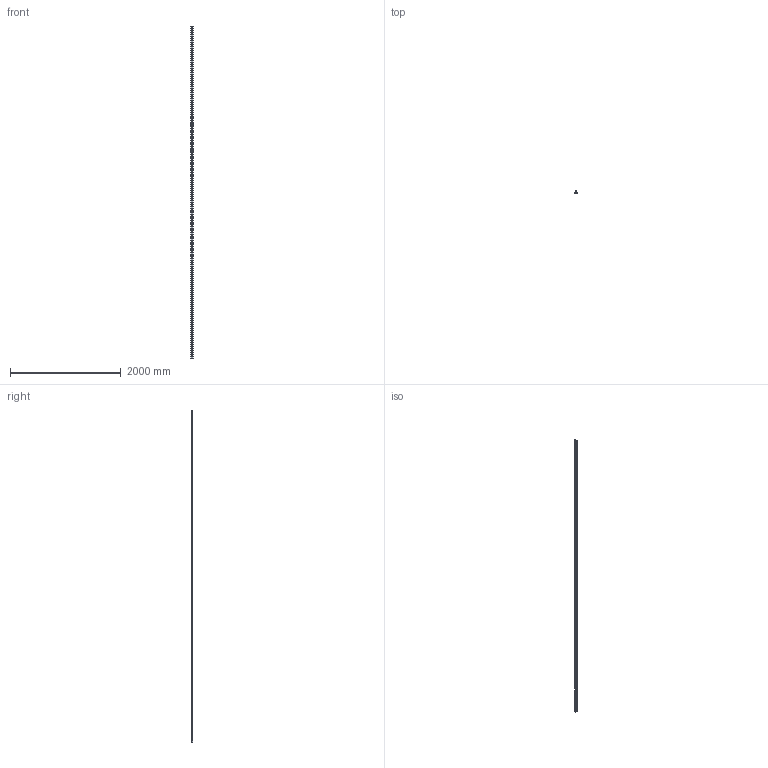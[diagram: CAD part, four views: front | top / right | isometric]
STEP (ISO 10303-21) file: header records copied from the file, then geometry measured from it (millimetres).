
FILE_DESCRIPTION (( 'STEP AP203' ), '1' );
FILE_NAME ('SBR16.STEP', '2023-12-18T14:15:40', ( '' ), ( '' ), 'SwSTEP 2.0', 'SolidWorks 2019', '' );
FILE_SCHEMA (( 'CONFIG_CONTROL_DESIGN' ));
Length unit declared in the file: millimetre
Products named in the file (1): SBR16
Bounding box: 40 x 32.92 x 6000 mm (x, y, z)
Volume: 3065209 mm3; surface area: 1041907.5 mm2
Topology: 2 solids, 2 shells, 843 faces, 2953 edges, 1874 vertices
Faces by surface type: plane 437, cylinder 322, cone 84
Entity records: 33978 total; most frequent: CARTESIAN_POINT 10711, ORIENTED_EDGE 5746, DIRECTION 4409, EDGE_CURVE 2873, VERTEX_POINT 1874, AXIS2_PLACEMENT_3D 1652, VECTOR 1105, LINE 1105
